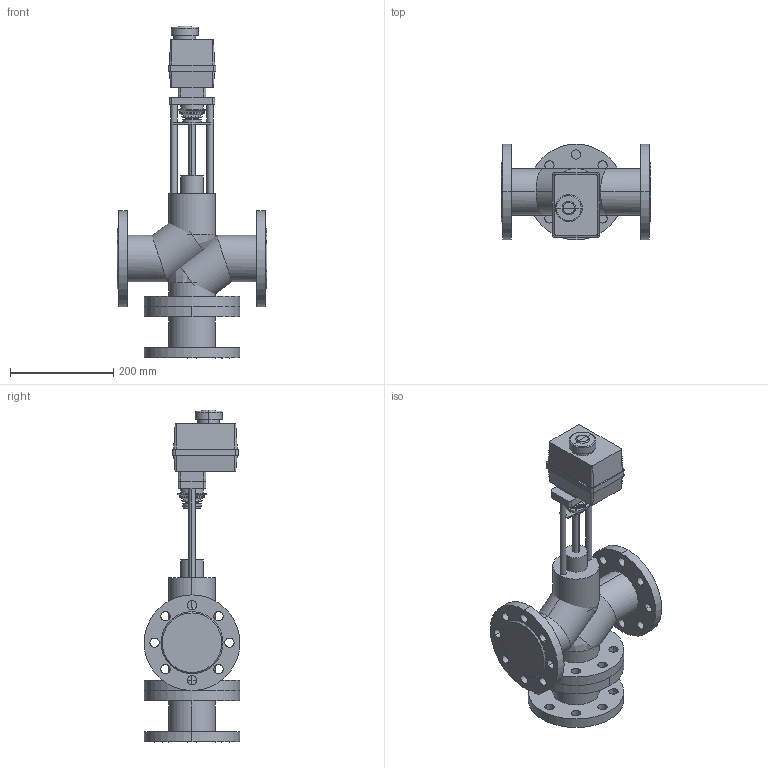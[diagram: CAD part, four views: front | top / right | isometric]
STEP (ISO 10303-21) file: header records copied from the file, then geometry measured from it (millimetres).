
FILE_DESCRIPTION(/* description */ (''),/* implementation_level */ '2;1');
FILE_NAME(/* name */ 'ТРК DN65 PN 2.5 МПа Regada ST0',/* time_stamp */ '2026-07-14T23:18:52+03:00',/* author */ (''),/* organization */ (''),/* preprocessor_version */ 'ST-DEVELOPER v20',/* originating_system */ '',/* authorisation */ '');
FILE_SCHEMA (('AP242_MANAGED_MODEL_BASED_3D_ENGINEERING_MIM_LF { 1 0 10303 442 1 1 4 }'));
Length unit declared in the file: millimetre
Products named in the file (17): TopLevelAssembly; Выдавливание; Модификатор; Модификатор_1; Выдавливание_
1; Выдавливание_
2; Вращение; Выдавливание_
3; Выдавливание_
4; Выдавливание_
5; Выдавливание_
6; Выдавливание_
7; Привод_Regada ST 0; Переход; Объемная геометрия 
присоединена; Полый Выдавливание; Объемная геометрия 
присоединена_1
Assembly tree (16 placements, depth 2):
  TopLevelAssembly
    Выдавливание
    Модификатор
    Модификатор_1
    Выдавливание_
1
    Выдавливание_
2
    Вращение
    Выдавливание_
3
    Выдавливание_
4
    Выдавливание_
5
    Выдавливание_
6
    Выдавливание_
7
    Привод_Regada ST 0
    Переход
    Объемная геометрия 
присоединена
    Полый Выдавливание
    Объемная геометрия 
присоединена_1
Bounding box: 290 x 185 x 641.99 mm (x, y, z)
Volume: 7536664.1 mm3; surface area: 848104.9 mm2
Topology: 27 solids, 27 shells, 282 faces, 638 edges, 404 vertices
Faces by surface type: cylinder 148, plane 94, bspline 28, cone 12
Entity records: 9071 total; most frequent: CARTESIAN_POINT 1781, DIRECTION 1564, ORIENTED_EDGE 1260, AXIS2_PLACEMENT_3D 647, EDGE_CURVE 630, VERTEX_POINT 404, EDGE_LOOP 372, CIRCLE 352
